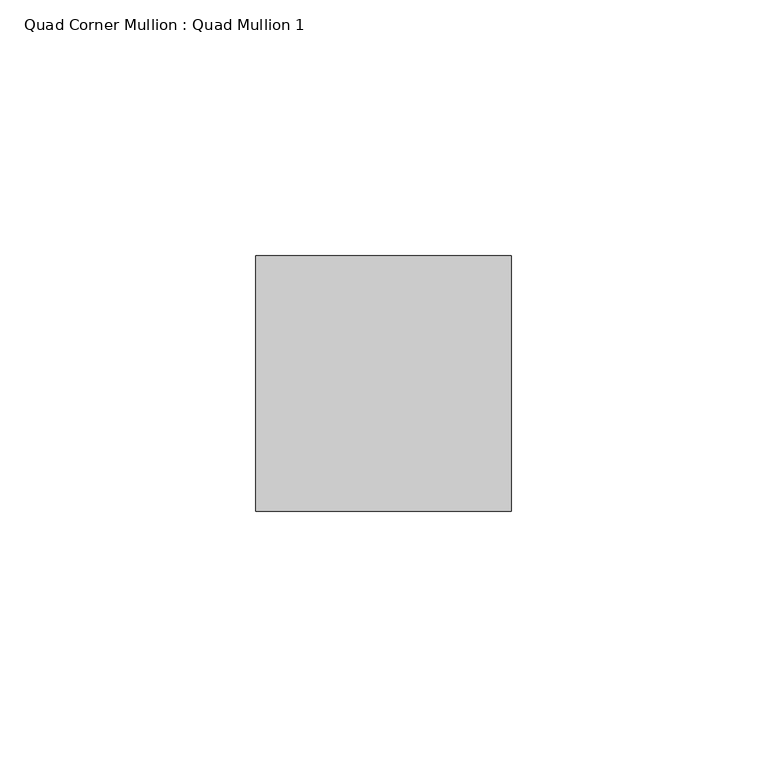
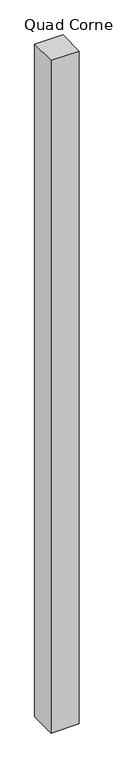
"""IFC4 building model written with IfcOpenShell, lengths in millimetres: member geometry, Quad Corner Mullion : Quad Mullion 1."""

from ifc_helpers import new_model, si_unit, frame, origin, place, context, project, spatial, polyline, outline, extrude, source, transform, mapped, element, save


def quad_corner_mullion_quad_mullion_1_59b14221(model_context):
    return source(origin(), model_context, "Body", "SweptSolid", [
        extrude(outline(polyline([(25.0, -25.0), (-25.0, -25.0), (-25.0, 25.0), (25.0, 25.0), (25.0, -25.0)])), frame((0.0, 0.0, -1262.4617166), z_axis=(0.0, 0.0, 1.0), x_axis=(1.0, 0.0, 0.0)), (0.0, 0.0, 1.0), 1262.4617166),
    ])


if __name__ == "__main__":
    model = new_model("IFC4")
    model_context = context("Model", 3, world=origin())
    ifc_project = project(units=[si_unit("LENGTHUNIT", "METRE", prefix="MILLI")], contexts=[model_context])
    site = spatial("IfcSite", under=ifc_project)
    building = spatial("IfcBuilding", under=site)
    placement = place(None, origin())
    quad_corner_mullion_quad_mullion_1_shape = quad_corner_mullion_quad_mullion_1_59b14221(model_context)
    element("IfcMember", 1, ObjectType="Quad Corner Mullion : Quad Mullion 1", at=placement, inside=building, context=model_context, shape_type="MappedRepresentation", body=[
        mapped(quad_corner_mullion_quad_mullion_1_shape, transform((0.0, 0.0, 0.0), x_axis=(1.0, 0.0, 0.0), y_axis=(0.0, 1.0, 0.0), z_axis=(0.0, 0.0, 1.0))),
    ])
    save(model, "model.ifc")
